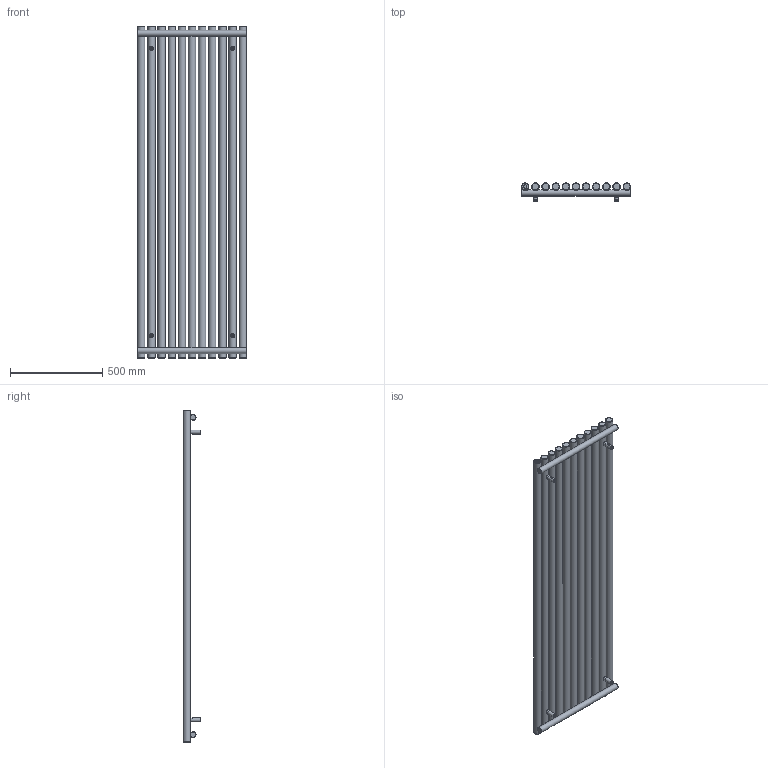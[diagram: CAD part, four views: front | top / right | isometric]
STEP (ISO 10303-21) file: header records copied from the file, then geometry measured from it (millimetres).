
FILE_DESCRIPTION(/* description */ (''),/* implementation_level */ '2;1');
FILE_NAME(/* name */ 'Z:\R\G\P\RGP116 - Grzejniki Geyser\Work\Inventor\Circolo (Rolo V, Rolo H)\ROLO-ROOM\Marketing\Zaokrąglone\WGROR180059-SX-CK-(Z).stp',/* time_stamp */ '2024-01-19T11:43:15+01:00',/* author */ ('NowAd'),/* organization */ (''),/* preprocessor_version */ 'ST-DEVELOPER v17.2',/* originating_system */ 'Autodesk Inventor 2019',/* authorisation */ '');
FILE_SCHEMA (('AUTOMOTIVE_DESIGN { 1 0 10303 214 3 1 1 }'));
Length unit declared in the file: millimetre
Products named in the file (3): WGROR180059-SX-CK-(Z); PGTHR180059-SX-MK-(K); CK-V-fi40 marketing
Assembly tree (5 placements, depth 2):
  WGROR180059-SX-CK-(Z)
    PGTHR180059-SX-MK-(K)
    CK-V-fi40 marketing  x4
Bounding box: 590 x 96.5 x 1800 mm (x, y, z)
Volume: 25866045.1 mm3; surface area: 2655099.2 mm2
Topology: 5 solids, 5 shells, 361 faces, 894 edges, 598 vertices
Faces by surface type: plane 145, cylinder 80, cone 60, torus 54, bspline 22
Full cylindrical faces by diameter (mm): 4.134 x4, 4.48 x4, 6.4 x4, 10 x4, 12 x4, 15.834 x4, 16 x4, 18.631 x3, 22 x4, 32 x2, 40 x11
Entity records: 10286 total; most frequent: CARTESIAN_POINT 6078, DIRECTION 875, ORIENTED_EDGE 826, EDGE_CURVE 413, AXIS2_PLACEMENT_3D 397, VERTEX_POINT 280, EDGE_LOOP 241, CIRCLE 225
